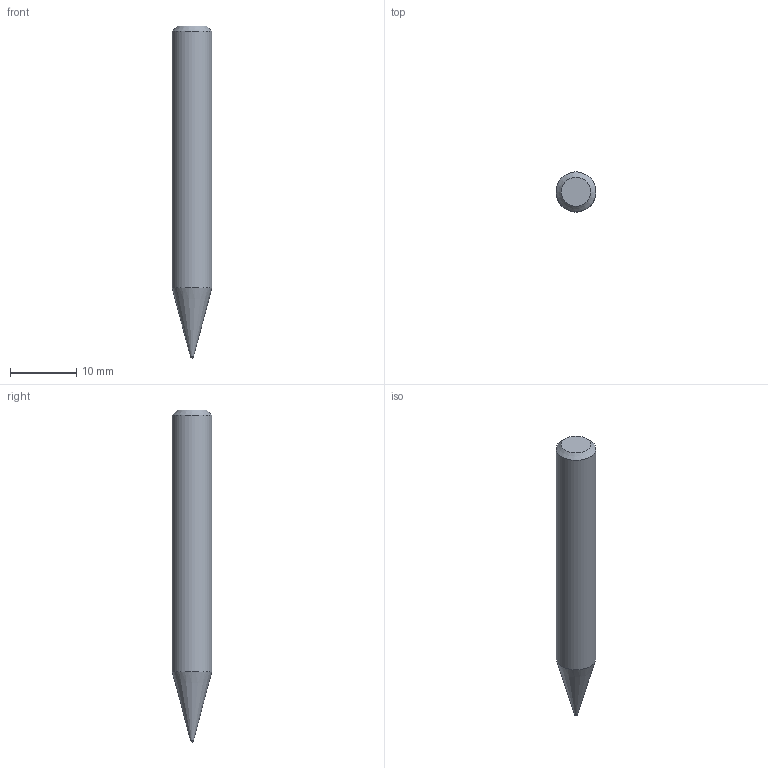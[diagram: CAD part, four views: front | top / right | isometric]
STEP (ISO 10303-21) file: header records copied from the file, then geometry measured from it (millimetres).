
FILE_DESCRIPTION((''),'2;1');
FILE_NAME('C:\Users\nsx150\AppData\Local\Temp\Mastercam 2021\8KJEN3TMUH\TEMP.step','2021-05-21T11:23:37',(''),(''),'STEP Write','Mastercam 2021 ... CNC Software, Inc.','');
FILE_SCHEMA(('AUTOMOTIVE_DESIGN'));
Length unit declared in the file: millimetre
Products named in the file (1): None
Bounding box: 6 x 6 x 50 mm (x, y, z)
Volume: 1215.1 mm3; surface area: 871.3 mm2
Topology: 2 solids, 2 shells, 8 faces, 12 edges, 7 vertices
Faces by surface type: plane 3, cylinder 2, cone 2, sphere 1
Full cylindrical faces by diameter (mm): 0.5 x1, 6 x1
Entity records: 190 total; most frequent: DIRECTION 32, CARTESIAN_POINT 22, AXIS2_PLACEMENT_3D 16, ORIENTED_EDGE 12, EDGE_LOOP 12, STYLED_ITEM 11, ADVANCED_FACE 8, VERTEX_POINT 6
